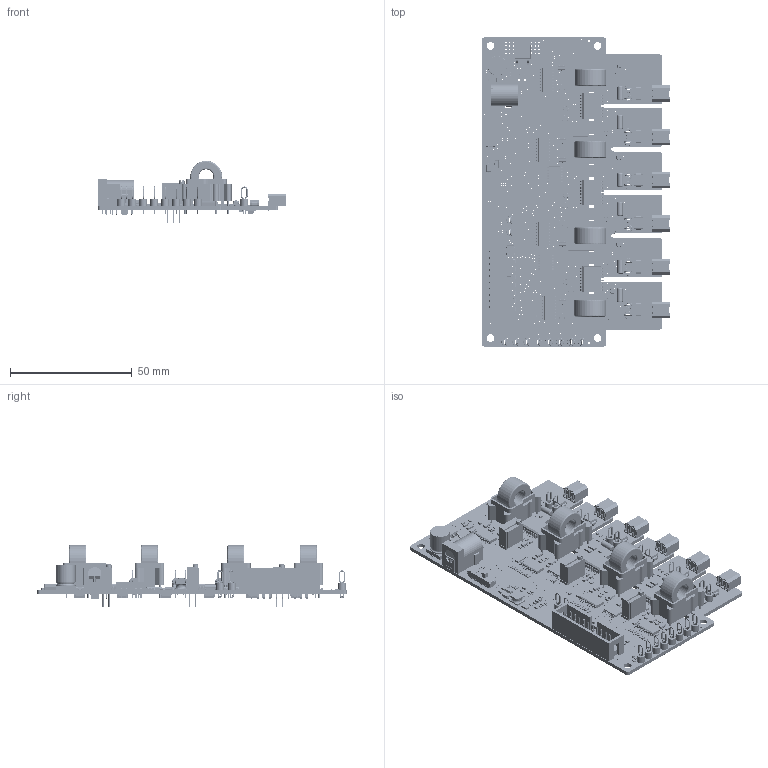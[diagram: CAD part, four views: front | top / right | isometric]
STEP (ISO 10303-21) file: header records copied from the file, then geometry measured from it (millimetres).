
FILE_DESCRIPTION(('for SolidWorks'),'2;1');
FILE_NAME('C:\Users\Taraz Tech1\Desktop\GDX-4A6S1.step', '2019-09-04T23:04:36',('Taraz Tech1'),(''), 'Open CASCADE STEP processor 6.6','DipTrace','Unknown');
FILE_SCHEMA(('AUTOMOTIVE_DESIGN { 1 0 10303 214 1 1 1 1 }'));
Length unit declared in the file: millimetre
Products named in the file (31): PCB_GDX-4A6S1; Board_GDX-4A6S1; CAP_1206; CAP_0603; CAP_8x10; DIO_SOD-123; DIO_SOD-323; LED_0603; SOT-490; SOT323; DIO_DO-214AA; CONN_IDC_2x10; CONN_DC-Jack_RA_163-179PH-EX; CONN_TB_2x2.5; CONN_TB_Jack_2x2.5_1814841; IND_4.9x4.9x3.1; SOT23; RES_0603; RES_0207_MELF; Slider_DP3T_thr_js203011cqn; TP_MP-BLK; TP_MP-ORG; TP_MP-RED; TP_MP-GRY; TRANS_P0584NL; TSSOP-20; TO252-3; SOIC16_300; SOIC16-150mil; SOT89; RES_POT_67Y
Assembly tree (305 placements, depth 2):
  PCB_GDX-4A6S1
    Board_GDX-4A6S1
    CAP_1206  x26
    CAP_0603  x52
    CAP_8x10
    DIO_SOD-123  x4
    DIO_SOD-323
    LED_0603  x20
    SOT-490  x7
    SOT323  x6
    DIO_DO-214AA  x6
    CONN_IDC_2x10
    CONN_DC-Jack_RA_163-179PH-EX
    CONN_TB_2x2.5
    CONN_TB_Jack_2x2.5_1814841  x6
    IND_4.9x4.9x3.1
    SOT23  x12
    RES_0603  x107
    RES_0207_MELF  x6
    Slider_DP3T_thr_js203011cqn
    TP_MP-BLK
    TP_MP-ORG  x13
    TP_MP-RED  x2
    TP_MP-GRY  x6
    TRANS_P0584NL  x4
    TSSOP-20  x2
    TO252-3
    SOIC16_300  x3
    SOIC16-150mil  x4
    SOT89  x6
    RES_POT_67Y  x3
Bounding box: 77.24 x 127 x 25.59 mm (x, y, z)
Volume: 18551.5 mm3; surface area: 44631.7 mm2
Topology: 136 solids, 815 shells, 24839 faces, 62612 edges, 39900 vertices
Faces by surface type: plane 13755, bspline 6587, cylinder 3587, sphere 624, torus 196, cone 66, extrusion 22, revolution 2
Full cylindrical faces by diameter (mm): 0.4 x395, 0.6 x24, 0.7 x9, 0.9 x26, 1 x34, 1.05 x2, 3.2 x4
Entity records: 163123 total; most frequent: CARTESIAN_POINT 33092, ORIENTED_EDGE 22672, DIRECTION 22066, EDGE_CURVE 11360, VECTOR 8472, LINE 8450, VERTEX_POINT 7344, AXIS2_PLACEMENT_3D 6796
